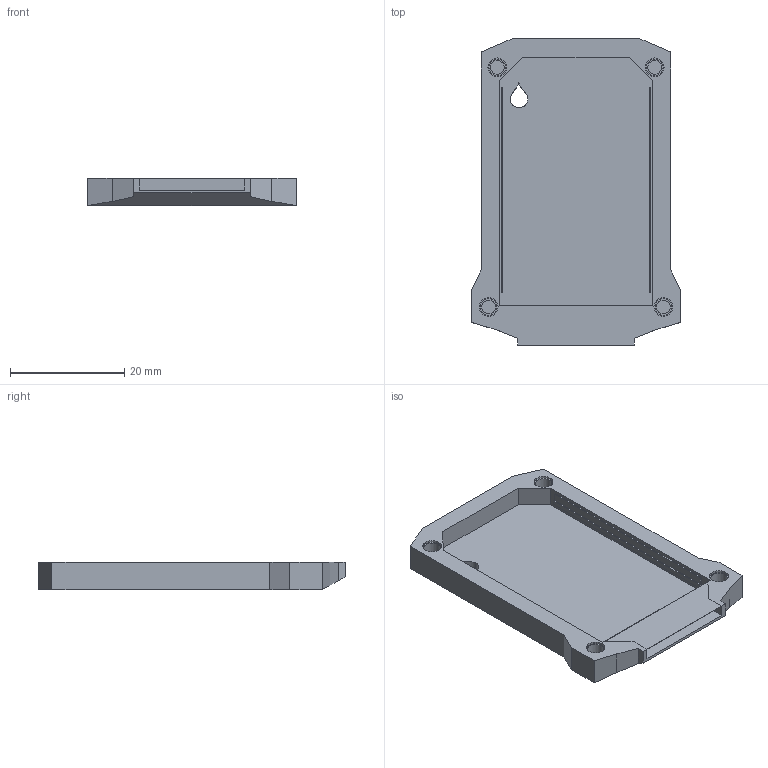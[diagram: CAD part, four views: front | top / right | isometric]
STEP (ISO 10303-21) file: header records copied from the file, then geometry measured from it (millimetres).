
FILE_DESCRIPTION(('Open CASCADE Model'),'2;1');
FILE_NAME('Open CASCADE Shape Model','2026-09-30T23:04:27',('Author'),( 'Open CASCADE'),'Open CASCADE STEP processor 8.0','Open CASCADE 8.0' ,'Unknown');
FILE_SCHEMA(('AP242_MANAGED_MODEL_BASED_3D_ENGINEERING_MIM_LF {1 0 10303 442 1 1 4 }' ));
Length unit declared in the file: millimetre
Products named in the file (1): Open CASCADE STEP translator 8.0 1
Bounding box: 36.6 x 53.7 x 4.75 mm (x, y, z)
Volume: 3875.5 mm3; surface area: 5203.9 mm2
Topology: 1 solids, 1 shells, 74 faces, 169 edges, 112 vertices
Faces by surface type: plane 58, cylinder 12, extrusion 4
Full cylindrical faces by diameter (mm): 2.4 x4, 2.9 x4, 3.3 x4
Entity records: 5172 total; most frequent: CARTESIAN_POINT 1742, DIRECTION 601, VECTOR 387, LINE 383, ORIENTED_EDGE 338, PCURVE 338, DEFINITIONAL_REPRESENTATION 338, EDGE_CURVE 169
